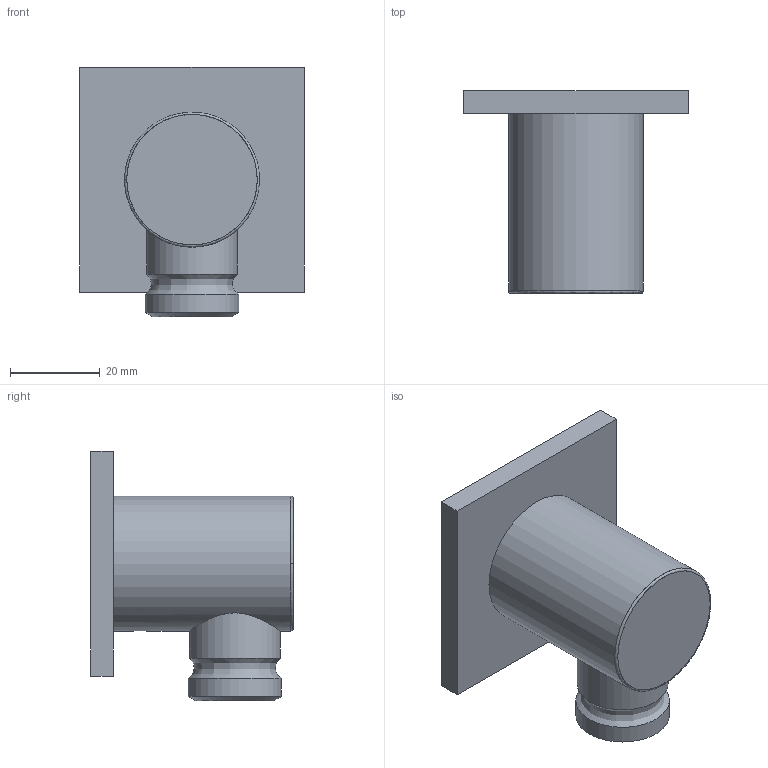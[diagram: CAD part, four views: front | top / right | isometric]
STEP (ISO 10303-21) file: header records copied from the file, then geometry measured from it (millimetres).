
FILE_DESCRIPTION(('STEP AP203'),'2;1');
FILE_NAME('DIS_3D_9417.stp','2021-11-30T11:31:56',(''),(''),'2015.2.119','THINKDESIGN','');
FILE_SCHEMA(('CONFIG_CONTROL_DESIGN'));
Length unit declared in the file: millimetre
Bounding box: 50 x 45 x 55.5 mm (x, y, z)
Volume: 20230.1 mm3; surface area: 14636.4 mm2
Topology: 2 solids, 2 shells, 36 faces, 106 edges, 90 vertices
Faces by surface type: plane 16, cylinder 12, bspline 8
Full cylindrical faces by diameter (mm): 3.3 x1, 9 x1, 15.262 x2, 16.662 x1, 20.2 x1, 20.5 x1, 20.831 x1, 21.1 x1, 30 x1
Entity records: 2683 total; most frequent: CARTESIAN_POINT 1728, DIRECTION 166, ORIENTED_EDGE 102, AXIS2_PLACEMENT_3D 67, COMPOSITE_CURVE_SEGMENT 54, EDGE_CURVE 51, CIRCLE 39, VERTEX_POINT 36
